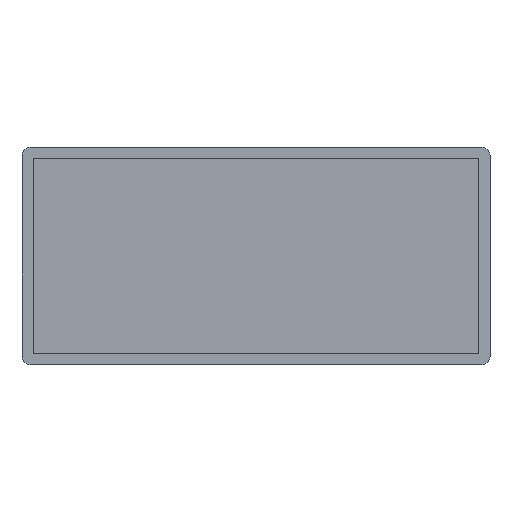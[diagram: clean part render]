
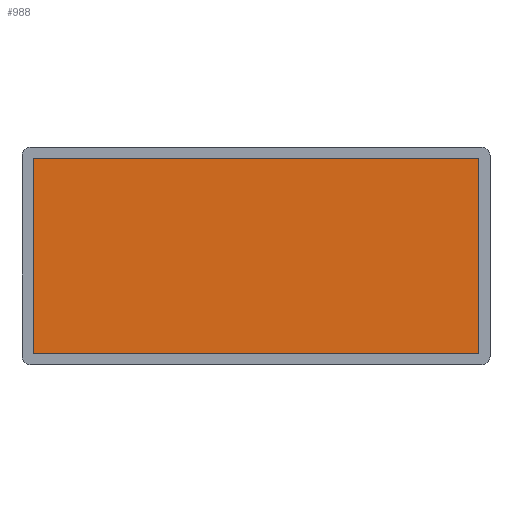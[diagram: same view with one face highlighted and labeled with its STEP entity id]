
A CAD part, top view. The second image highlights one B-rep face of the part: STEP entity #988.
In plain terms, the highlighted planar face has unit normal (0, 0, 1).
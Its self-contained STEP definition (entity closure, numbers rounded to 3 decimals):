
#357 = PLANE('',#358);
#358 = AXIS2_PLACEMENT_3D('',#359,#360,#361);
#359 = CARTESIAN_POINT('',(-80.,-35.,-7.));
#360 = DIRECTION('',(0.,1.,0.));
#361 = DIRECTION('',(0.,0.,1.));
#383 = PLANE('',#384);
#384 = AXIS2_PLACEMENT_3D('',#385,#386,#387);
#385 = CARTESIAN_POINT('',(-80.,-35.,-7.));
#386 = DIRECTION('',(1.,0.,0.));
#387 = DIRECTION('',(0.,0.,1.));
#409 = PLANE('',#410);
#410 = AXIS2_PLACEMENT_3D('',#411,#412,#413);
#411 = CARTESIAN_POINT('',(-80.,35.,-7.));
#412 = DIRECTION('',(0.,1.,0.));
#413 = DIRECTION('',(0.,0.,1.));
#433 = PLANE('',#434);
#434 = AXIS2_PLACEMENT_3D('',#435,#436,#437);
#435 = CARTESIAN_POINT('',(80.,-35.,-7.));
#436 = DIRECTION('',(1.,0.,0.));
#437 = DIRECTION('',(0.,0.,1.));
#792 = VERTEX_POINT('',#793);
#793 = CARTESIAN_POINT('',(80.,-35.,-7.));
#814 = EDGE_CURVE('',#815,#792,#817,.T.);
#815 = VERTEX_POINT('',#816);
#816 = CARTESIAN_POINT('',(-80.,-35.,-7.));
#817 = SURFACE_CURVE('',#818,(#822,#829),.PCURVE_S1.);
#818 = LINE('',#819,#820);
#819 = CARTESIAN_POINT('',(-80.,-35.,-7.));
#820 = VECTOR('',#821,1.);
#821 = DIRECTION('',(1.,0.,0.));
#822 = PCURVE('',#357,#823);
#823 = DEFINITIONAL_REPRESENTATION('',(#824),#828);
#824 = LINE('',#825,#826);
#825 = CARTESIAN_POINT('',(0.,0.));
#826 = VECTOR('',#827,1.);
#827 = DIRECTION('',(0.,1.));
#828 = ( GEOMETRIC_REPRESENTATION_CONTEXT(2) 
PARAMETRIC_REPRESENTATION_CONTEXT() REPRESENTATION_CONTEXT('2D SPACE',''
  ) );
#829 = PCURVE('',#830,#835);
#830 = PLANE('',#831);
#831 = AXIS2_PLACEMENT_3D('',#832,#833,#834);
#832 = CARTESIAN_POINT('',(-80.,-35.,-7.));
#833 = DIRECTION('',(0.,0.,1.));
#834 = DIRECTION('',(1.,0.,0.));
#835 = DEFINITIONAL_REPRESENTATION('',(#836),#840);
#836 = LINE('',#837,#838);
#837 = CARTESIAN_POINT('',(0.,0.));
#838 = VECTOR('',#839,1.);
#839 = DIRECTION('',(1.,0.));
#840 = ( GEOMETRIC_REPRESENTATION_CONTEXT(2) 
PARAMETRIC_REPRESENTATION_CONTEXT() REPRESENTATION_CONTEXT('2D SPACE',''
  ) );
#868 = EDGE_CURVE('',#792,#869,#871,.T.);
#869 = VERTEX_POINT('',#870);
#870 = CARTESIAN_POINT('',(80.,35.,-7.));
#871 = SURFACE_CURVE('',#872,(#876,#883),.PCURVE_S1.);
#872 = LINE('',#873,#874);
#873 = CARTESIAN_POINT('',(80.,-35.,-7.));
#874 = VECTOR('',#875,1.);
#875 = DIRECTION('',(0.,1.,0.));
#876 = PCURVE('',#433,#877);
#877 = DEFINITIONAL_REPRESENTATION('',(#878),#882);
#878 = LINE('',#879,#880);
#879 = CARTESIAN_POINT('',(0.,0.));
#880 = VECTOR('',#881,1.);
#881 = DIRECTION('',(0.,-1.));
#882 = ( GEOMETRIC_REPRESENTATION_CONTEXT(2) 
PARAMETRIC_REPRESENTATION_CONTEXT() REPRESENTATION_CONTEXT('2D SPACE',''
  ) );
#883 = PCURVE('',#830,#884);
#884 = DEFINITIONAL_REPRESENTATION('',(#885),#889);
#885 = LINE('',#886,#887);
#886 = CARTESIAN_POINT('',(160.,0.));
#887 = VECTOR('',#888,1.);
#888 = DIRECTION('',(0.,1.));
#889 = ( GEOMETRIC_REPRESENTATION_CONTEXT(2) 
PARAMETRIC_REPRESENTATION_CONTEXT() REPRESENTATION_CONTEXT('2D SPACE',''
  ) );
#917 = EDGE_CURVE('',#918,#869,#920,.T.);
#918 = VERTEX_POINT('',#919);
#919 = CARTESIAN_POINT('',(-80.,35.,-7.));
#920 = SURFACE_CURVE('',#921,(#925,#932),.PCURVE_S1.);
#921 = LINE('',#922,#923);
#922 = CARTESIAN_POINT('',(-80.,35.,-7.));
#923 = VECTOR('',#924,1.);
#924 = DIRECTION('',(1.,0.,0.));
#925 = PCURVE('',#409,#926);
#926 = DEFINITIONAL_REPRESENTATION('',(#927),#931);
#927 = LINE('',#928,#929);
#928 = CARTESIAN_POINT('',(0.,0.));
#929 = VECTOR('',#930,1.);
#930 = DIRECTION('',(0.,1.));
#931 = ( GEOMETRIC_REPRESENTATION_CONTEXT(2) 
PARAMETRIC_REPRESENTATION_CONTEXT() REPRESENTATION_CONTEXT('2D SPACE',''
  ) );
#932 = PCURVE('',#830,#933);
#933 = DEFINITIONAL_REPRESENTATION('',(#934),#938);
#934 = LINE('',#935,#936);
#935 = CARTESIAN_POINT('',(0.,70.));
#936 = VECTOR('',#937,1.);
#937 = DIRECTION('',(1.,0.));
#938 = ( GEOMETRIC_REPRESENTATION_CONTEXT(2) 
PARAMETRIC_REPRESENTATION_CONTEXT() REPRESENTATION_CONTEXT('2D SPACE',''
  ) );
#966 = EDGE_CURVE('',#815,#918,#967,.T.);
#967 = SURFACE_CURVE('',#968,(#972,#979),.PCURVE_S1.);
#968 = LINE('',#969,#970);
#969 = CARTESIAN_POINT('',(-80.,-35.,-7.));
#970 = VECTOR('',#971,1.);
#971 = DIRECTION('',(0.,1.,0.));
#972 = PCURVE('',#383,#973);
#973 = DEFINITIONAL_REPRESENTATION('',(#974),#978);
#974 = LINE('',#975,#976);
#975 = CARTESIAN_POINT('',(0.,0.));
#976 = VECTOR('',#977,1.);
#977 = DIRECTION('',(0.,-1.));
#978 = ( GEOMETRIC_REPRESENTATION_CONTEXT(2) 
PARAMETRIC_REPRESENTATION_CONTEXT() REPRESENTATION_CONTEXT('2D SPACE',''
  ) );
#979 = PCURVE('',#830,#980);
#980 = DEFINITIONAL_REPRESENTATION('',(#981),#985);
#981 = LINE('',#982,#983);
#982 = CARTESIAN_POINT('',(0.,0.));
#983 = VECTOR('',#984,1.);
#984 = DIRECTION('',(0.,1.));
#985 = ( GEOMETRIC_REPRESENTATION_CONTEXT(2) 
PARAMETRIC_REPRESENTATION_CONTEXT() REPRESENTATION_CONTEXT('2D SPACE',''
  ) );
#988 = ADVANCED_FACE('',(#989),#830,.T.);
#989 = FACE_BOUND('',#990,.T.);
#990 = EDGE_LOOP('',(#991,#992,#993,#994));
#991 = ORIENTED_EDGE('',*,*,#966,.F.);
#992 = ORIENTED_EDGE('',*,*,#814,.T.);
#993 = ORIENTED_EDGE('',*,*,#868,.T.);
#994 = ORIENTED_EDGE('',*,*,#917,.F.);
